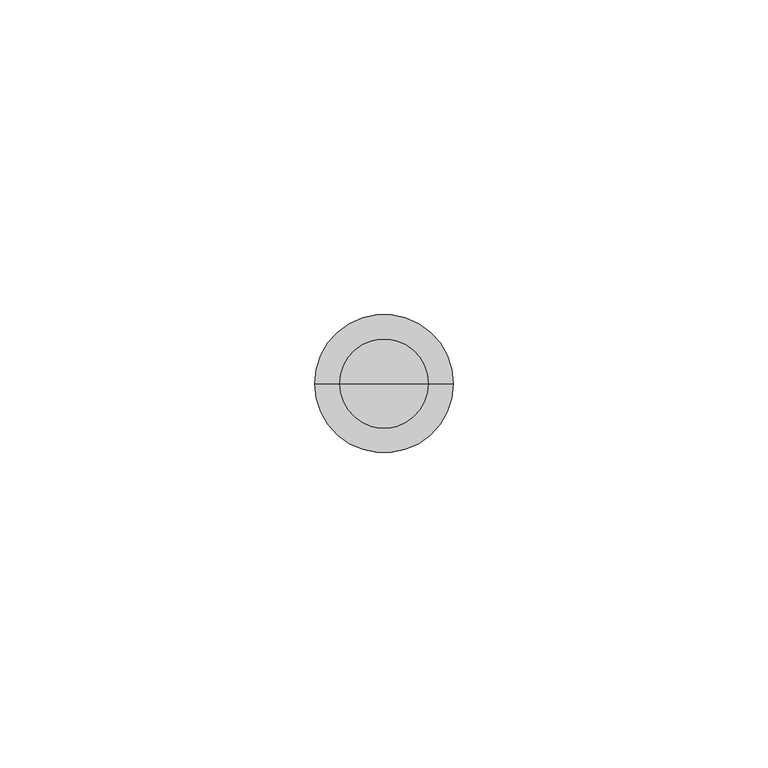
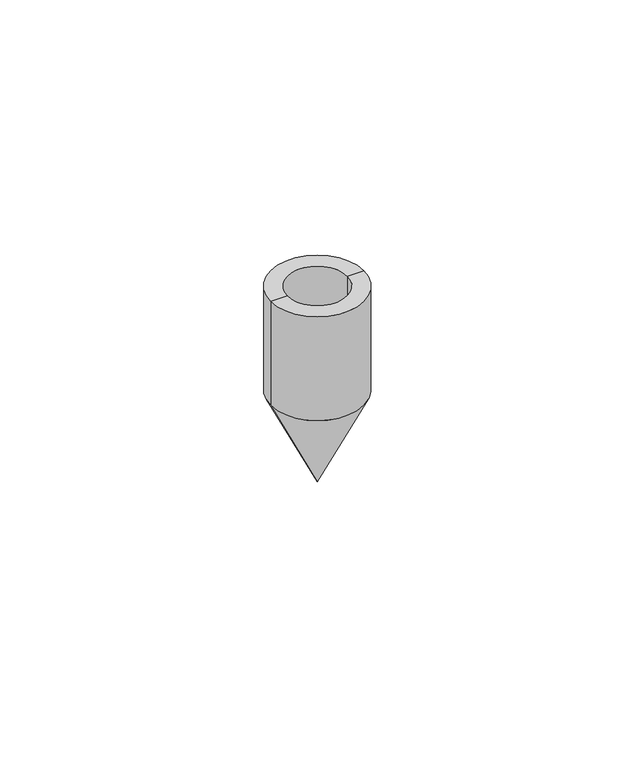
"""IFC4 building model written with IfcOpenShell, lengths in millimetres: proxy geometry, КНС_НаконечникВертикальногоЗаземлителя_DKC : NE1407_Сталь_D14."""

from ifc_helpers import new_model, si_unit, frame, origin, origin_with_axes, place, context, project, spatial, polyline, circle_curve, source, transform, mapped, element, save
from ifc_brep_helpers import plane_surface, cylinder_surface, revolved_surface, advanced_brep


def security_devices_df28b7d4(model_context):
    return source(origin(), model_context, "Body", "AdvancedBrep", [
        advanced_brep(
        [(-7.1, 0.0, 27.0), (7.1, 0.0, 27.0), (11.0, 0.0, 27.0), (-11.0, 0.0, 27.0), (-7.1, 0.0, 0.0), (7.1, 0.0, 0.0), (0.0, 0.0, 0.0), (-11.0, 0.0, 1.0), (11.0, 0.0, 1.0), (0.0, 0.0, -22.0)],
        [
            (0, 1, circle_curve(frame((0.0, 0.0, 27.0), z_axis=(0.0, 0.0, -1.0), x_axis=(1.0, 0.0, 0.0)), 7.1)),
            (1, 2),
            (2, 3, circle_curve(frame((0.0, 0.0, 27.0), z_axis=(0.0, 0.0, 1.0), x_axis=(1.0, 0.0, 0.0)), 11.0)),
            (3, 0),
            (1, 0, circle_curve(frame((0.0, 0.0, 27.0), z_axis=(0.0, 0.0, -1.0), x_axis=(1.0, 0.0, 0.0)), 7.1)),
            (3, 2, circle_curve(frame((0.0, 0.0, 27.0), z_axis=(0.0, 0.0, 1.0), x_axis=(1.0, 0.0, 0.0)), 11.0)),
            (4, 5, circle_curve(frame((0.0, 0.0, 0.0), z_axis=(0.0, 0.0, -1.0), x_axis=(1.0, 0.0, 0.0)), 7.1)),
            (5, 1),
            (0, 4),
            (5, 4, circle_curve(frame((0.0, 0.0, 0.0), z_axis=(0.0, 0.0, -1.0), x_axis=(1.0, 0.0, 0.0)), 7.1)),
            (6, 5),
            (4, 6),
            (7, 8, circle_curve(frame((0.0, 0.0, 1.0), z_axis=(0.0, 0.0, -1.0), x_axis=(1.0, 0.0, 0.0)), 11.0)),
            (8, 9),
            (9, 7),
            (8, 7, circle_curve(frame((0.0, 0.0, 1.0), z_axis=(0.0, 0.0, -1.0), x_axis=(1.0, 0.0, 0.0)), 11.0)),
            (2, 8),
            (7, 3),
        ],
        [
            plane_surface(frame((0.0, 0.0, 27.0), z_axis=(0.0, 0.0, 1.0), x_axis=(1.0, 0.0, 0.0))),
            revolved_surface(polyline([(7.1, 0.0, 27.0), (7.1, 0.0, 0.0)]), (0.0, 0.0, 2214.3150031), (0.0, 0.0, 1.0)),
            plane_surface(origin_with_axes()),
            revolved_surface(polyline([(0.0, 0.0, -22.0), (11.0, 0.0, 1.0)]), (0.0, 0.0, 2214.3150031), (0.0, 0.0, 1.0)),
            cylinder_surface(frame((0.0, 0.0, 2214.3150031), z_axis=(0.0, 0.0, 1.0), x_axis=(1.0, 0.0, 0.0)), 11.0),
        ],
        [
            (0, [[1, 2, 3, 4]]),
            (0, [[5, -4, 6, -2]]),
            (1, [[7, 8, -1, 9]]),
            (1, [[10, -9, -5, -8]]),
            (2, [[11, -7, 12]]),
            (2, [[-12, -10, -11]]),
            (3, [[13, 14, 15]]),
            (3, [[16, -15, -14]]),
            (4, [[-3, 17, -13, 18]]),
            (4, [[-6, -18, -16, -17]]),
        ],
    ),
    ])


if __name__ == "__main__":
    model = new_model("IFC4")
    model_context = context("Model", 3, world=origin())
    ifc_project = project(units=[si_unit("LENGTHUNIT", "METRE", prefix="MILLI")], contexts=[model_context])
    site = spatial("IfcSite", under=ifc_project)
    building = spatial("IfcBuilding", under=site)
    placement = place(None, origin())
    security_devices_shape = security_devices_df28b7d4(model_context)
    element("IfcBuildingElementProxy", 1, Name="КНС_НаконечникВертикальногоЗаземлителя_DKC : NE1407_Сталь_D14", ObjectType="КНС_НаконечникВертикальногоЗаземлителя_DKC : NE1407_Сталь_D14", at=placement, inside=building, context=model_context, shape_type="MappedRepresentation", body=[
        mapped(security_devices_shape, transform((0.0, 0.0, 0.0), x_axis=(1.0, 0.0, 0.0), y_axis=(0.0, 1.0, 0.0), z_axis=(0.0, 0.0, 1.0))),
    ])
    save(model, "model.ifc")
